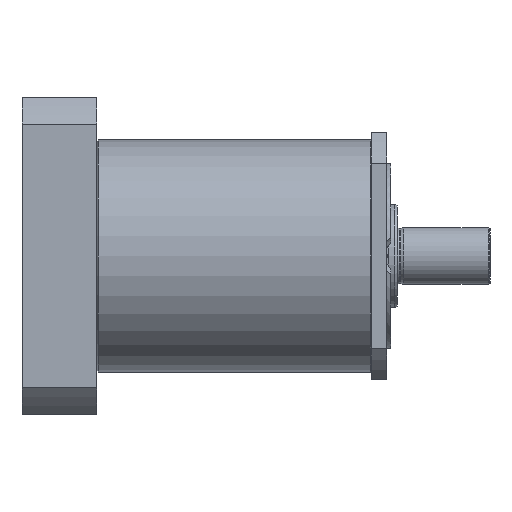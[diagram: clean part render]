
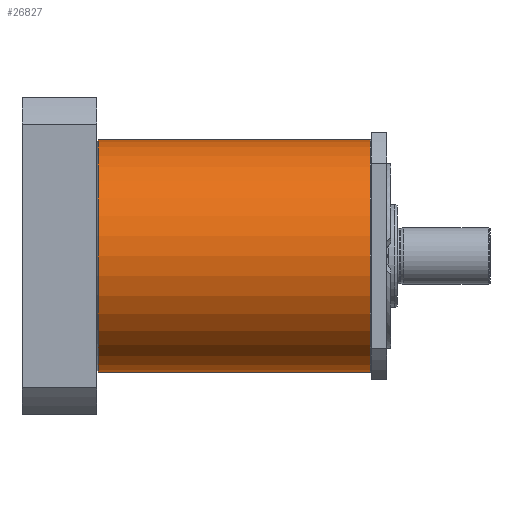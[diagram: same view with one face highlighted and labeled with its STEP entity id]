
A CAD part, front view. The second image highlights one B-rep face of the part: STEP entity #26827.
In plain terms, the highlighted cylindrical face has radius 45 mm (diameter 90 mm), a partial arc.
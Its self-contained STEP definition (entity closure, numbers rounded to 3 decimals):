
#843 = CARTESIAN_POINT ( 'NONE',  ( 106., 0., -45. ) ) ;
#1722 = ORIENTED_EDGE ( 'NONE', *, *, #7621, .T. ) ;
#1946 = ORIENTED_EDGE ( 'NONE', *, *, #26469, .T. ) ;
#3146 = CYLINDRICAL_SURFACE ( 'NONE', #11203, 45. ) ;
#3341 = CIRCLE ( 'NONE', #32570, 45. ) ;
#3549 = VERTEX_POINT ( 'NONE', #5562 ) ;
#4397 = CIRCLE ( 'NONE', #8347, 45. ) ;
#5562 = CARTESIAN_POINT ( 'NONE',  ( 0.5, 0., 45. ) ) ;
#7621 = EDGE_CURVE ( 'NONE', #3549, #17978, #3341, .T. ) ;
#8302 = DIRECTION ( 'NONE',  ( 0., 0., 1. ) ) ;
#8347 = AXIS2_PLACEMENT_3D ( 'NONE', #32577, #13928, #8302 ) ;
#8948 = DIRECTION ( 'NONE',  ( 1., 0., 0. ) ) ;
#9511 = DIRECTION ( 'NONE',  ( 1., 0., 0. ) ) ;
#9663 = VERTEX_POINT ( 'NONE', #843 ) ;
#11203 = AXIS2_PLACEMENT_3D ( 'NONE', #24971, #8948, #14926 ) ;
#13928 = DIRECTION ( 'NONE',  ( -1., 0., 0. ) ) ;
#14926 = DIRECTION ( 'NONE',  ( 0., 0., -1. ) ) ;
#15346 = EDGE_CURVE ( 'NONE', #17978, #9663, #32791, .T. ) ;
#17710 = ORIENTED_EDGE ( 'NONE', *, *, #22449, .F. ) ;
#17978 = VERTEX_POINT ( 'NONE', #26336 ) ;
#19411 = CARTESIAN_POINT ( 'NONE',  ( 52.368, 0., -45. ) ) ;
#20956 = ORIENTED_EDGE ( 'NONE', *, *, #15346, .T. ) ;
#21877 = EDGE_LOOP ( 'NONE', ( #17710, #1722, #20956, #1946 ) ) ;
#22449 = EDGE_CURVE ( 'NONE', #3549, #29105, #22554, .T. ) ;
#22554 = LINE ( 'NONE', #23077, #27863 ) ;
#23077 = CARTESIAN_POINT ( 'NONE',  ( 52.368, 0., 45. ) ) ;
#24721 = DIRECTION ( 'NONE',  ( 1., 0., 0. ) ) ;
#24971 = CARTESIAN_POINT ( 'NONE',  ( 52.368, 0., 0. ) ) ;
#26190 = CARTESIAN_POINT ( 'NONE',  ( 106., 0., 45. ) ) ;
#26336 = CARTESIAN_POINT ( 'NONE',  ( 0.5, 0., -45. ) ) ;
#26469 = EDGE_CURVE ( 'NONE', #9663, #29105, #4397, .T. ) ;
#26827 = ADVANCED_FACE ( 'NONE', ( #27596 ), #3146, .T. ) ;
#27596 = FACE_OUTER_BOUND ( 'NONE', #21877, .T. ) ;
#27863 = VECTOR ( 'NONE', #28175, 1000. ) ;
#27991 = CARTESIAN_POINT ( 'NONE',  ( 0.5, 0., 0. ) ) ;
#28175 = DIRECTION ( 'NONE',  ( 1., 0., 0. ) ) ;
#29105 = VERTEX_POINT ( 'NONE', #26190 ) ;
#29223 = VECTOR ( 'NONE', #24721, 1000. ) ;
#32570 = AXIS2_PLACEMENT_3D ( 'NONE', #27991, #9511, #33446 ) ;
#32577 = CARTESIAN_POINT ( 'NONE',  ( 106., 0., 0. ) ) ;
#32791 = LINE ( 'NONE', #19411, #29223 ) ;
#33446 = DIRECTION ( 'NONE',  ( 0., 0., -1. ) ) ;
